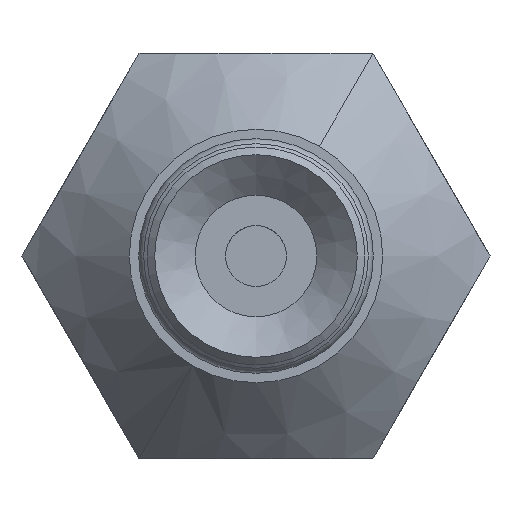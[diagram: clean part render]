
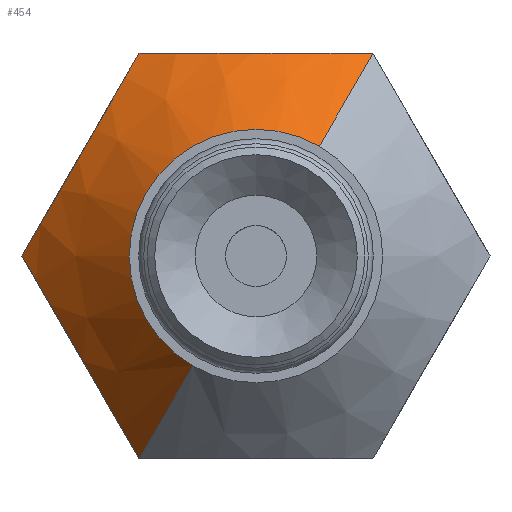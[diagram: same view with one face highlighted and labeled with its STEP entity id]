
A CAD part, front view. The second image highlights one B-rep face of the part: STEP entity #454.
In plain terms, the highlighted conical face has half-angle 45 degrees and reference radius 2.5 mm.
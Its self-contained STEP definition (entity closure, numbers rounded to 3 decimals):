
#454=ADVANCED_FACE('',(#645),#646,.T.);
#645=FACE_OUTER_BOUND('',#931,.T.);
#646=CONICAL_SURFACE('',#932,2.5,0.785);
#931=EDGE_LOOP('',(#1509,#1510,#1511,#1512,#1513,#1514));
#932=AXIS2_PLACEMENT_3D('',#1515,#1516,#1517);
#1509=ORIENTED_EDGE('',*,*,#2111,.F.);
#1510=ORIENTED_EDGE('',*,*,#2112,.T.);
#1511=ORIENTED_EDGE('',*,*,#2102,.F.);
#1512=ORIENTED_EDGE('',*,*,#2113,.F.);
#1513=ORIENTED_EDGE('',*,*,#2107,.F.);
#1514=ORIENTED_EDGE('',*,*,#2114,.F.);
#1515=CARTESIAN_POINT('',(0.0,0.,0.0));
#1516=DIRECTION('',(-0.0,1.0,0.0));
#1517=DIRECTION('',(0.866,0.0,-0.5));
#2102=EDGE_CURVE('',#2430,#2408,#2431,.T.);
#2107=EDGE_CURVE('',#2439,#2440,#2441,.T.);
#2111=EDGE_CURVE('',#2446,#2447,#2448,.T.);
#2112=EDGE_CURVE('',#2446,#2408,#2449,.T.);
#2113=EDGE_CURVE('',#2440,#2430,#2450,.T.);
#2114=EDGE_CURVE('',#2447,#2439,#2451,.T.);
#2408=VERTEX_POINT('',#2939);
#2430=VERTEX_POINT('',#2989);
#2431=B_SPLINE_CURVE_WITH_KNOTS('',3,(#2990,#2991,#2992,#2993,#2994,#2995,#2996,#2997,#2998,#2999,#3000,#3001),.UNSPECIFIED.,.F.,.F.,(4,2,2,2,2,4),(0.0,0.001,0.002,0.002,0.004,0.005),.UNSPECIFIED.);
#2439=VERTEX_POINT('',#3016);
#2440=VERTEX_POINT('',#3017);
#2441=B_SPLINE_CURVE_WITH_KNOTS('',3,(#3018,#3019,#3020,#3021,#3022,#3023,#3024,#3025,#3026,#3027,#3028,#3029),.UNSPECIFIED.,.F.,.F.,(4,2,2,2,2,4),(0.0,0.001,0.002,0.002,0.004,0.005),.UNSPECIFIED.);
#2446=VERTEX_POINT('',#3039);
#2447=VERTEX_POINT('',#3040);
#2448=CIRCLE('',#3041,2.5);
#2449=LINE('',#3042,#3043);
#2450=B_SPLINE_CURVE_WITH_KNOTS('',3,(#3044,#3045,#3046,#3047,#3048,#3049,#3050,#3051,#3052,#3053,#3054,#3055),.UNSPECIFIED.,.F.,.F.,(4,2,2,2,2,4),(0.,0.001,0.002,0.002,0.004,0.005),.UNSPECIFIED.);
#2451=LINE('',#3056,#3057);
#2939=CARTESIAN_POINT('',(2.309,2.119,4.0));
#2989=CARTESIAN_POINT('',(-2.309,2.119,4.0));
#2990=CARTESIAN_POINT('',(-2.309,2.119,4.0));
#2991=CARTESIAN_POINT('',(-1.949,1.938,4.0));
#2992=CARTESIAN_POINT('',(-1.58,1.785,4.0));
#2993=CARTESIAN_POINT('',(-1.006,1.621,4.0));
#2994=CARTESIAN_POINT('',(-0.812,1.577,4.0));
#2995=CARTESIAN_POINT('',(-0.415,1.517,4.0));
#2996=CARTESIAN_POINT('',(-0.21,1.5,4.0));
#2997=CARTESIAN_POINT('',(0.395,1.499,4.0));
#2998=CARTESIAN_POINT('',(0.791,1.56,4.0));
#2999=CARTESIAN_POINT('',(1.573,1.782,4.0));
#3000=CARTESIAN_POINT('',(1.946,1.937,4.0));
#3001=CARTESIAN_POINT('',(2.309,2.119,4.0));
#3016=CARTESIAN_POINT('',(-2.309,2.119,-4.0));
#3017=CARTESIAN_POINT('',(-4.619,2.119,0.));
#3018=CARTESIAN_POINT('',(-2.309,2.119,-4.0));
#3019=CARTESIAN_POINT('',(-2.49,1.938,-3.687));
#3020=CARTESIAN_POINT('',(-2.674,1.785,-3.368));
#3021=CARTESIAN_POINT('',(-2.961,1.621,-2.871));
#3022=CARTESIAN_POINT('',(-3.058,1.577,-2.703));
#3023=CARTESIAN_POINT('',(-3.257,1.517,-2.359));
#3024=CARTESIAN_POINT('',(-3.359,1.5,-2.182));
#3025=CARTESIAN_POINT('',(-3.661,1.499,-1.658));
#3026=CARTESIAN_POINT('',(-3.86,1.56,-1.315));
#3027=CARTESIAN_POINT('',(-4.25,1.782,-0.638));
#3028=CARTESIAN_POINT('',(-4.437,1.937,-0.314));
#3029=CARTESIAN_POINT('',(-4.619,2.119,0.));
#3039=CARTESIAN_POINT('',(1.25,0.,2.165));
#3040=CARTESIAN_POINT('',(-1.25,0.,-2.165));
#3041=AXIS2_PLACEMENT_3D('',#3551,#3552,#3553);
#3042=CARTESIAN_POINT('',(1.78,1.059,3.083));
#3043=VECTOR('',#3554,1.0);
#3044=CARTESIAN_POINT('',(-4.619,2.119,0.0));
#3045=CARTESIAN_POINT('',(-4.438,1.938,0.313));
#3046=CARTESIAN_POINT('',(-4.254,1.785,0.632));
#3047=CARTESIAN_POINT('',(-3.967,1.621,1.129));
#3048=CARTESIAN_POINT('',(-3.87,1.577,1.297));
#3049=CARTESIAN_POINT('',(-3.671,1.517,1.641));
#3050=CARTESIAN_POINT('',(-3.569,1.5,1.818));
#3051=CARTESIAN_POINT('',(-3.267,1.499,2.342));
#3052=CARTESIAN_POINT('',(-3.069,1.56,2.685));
#3053=CARTESIAN_POINT('',(-2.678,1.782,3.362));
#3054=CARTESIAN_POINT('',(-2.491,1.937,3.686));
#3055=CARTESIAN_POINT('',(-2.309,2.119,4.0));
#3056=CARTESIAN_POINT('',(-1.78,1.059,-3.083));
#3057=VECTOR('',#3555,1.0);
#3551=CARTESIAN_POINT('',(0.0,0.,0.0));
#3552=DIRECTION('',(0.0,-1.0,0.0));
#3553=DIRECTION('',(0.0,0.0,-1.0));
#3554=DIRECTION('',(0.354,0.707,0.612));
#3555=DIRECTION('',(-0.354,0.707,-0.612));
